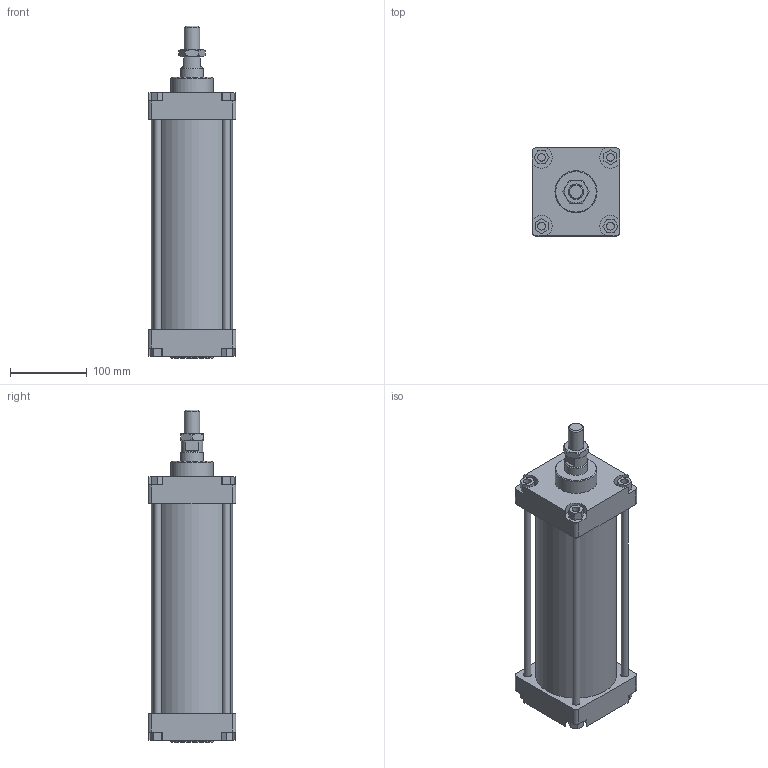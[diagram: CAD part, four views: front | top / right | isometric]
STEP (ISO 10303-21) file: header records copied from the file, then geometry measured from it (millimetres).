
FILE_DESCRIPTION(/* description */ (''),/* implementation_level */ '2;1');
FILE_NAME(/* name */ 'I:\Area Tecnica\Disegni\VARIE-3D\Componenti\CSP\Ø100\130#_100_####_###\130#_100_0200_01A.stp',/* time_stamp */ '2016-11-24T13:51:23+01:00',/* author */ ('Maniean1'),/* organization */ ('Pneumax S.p.A.'),/* preprocessor_version */ 'ST-DEVELOPER v15.2',/* originating_system */ 'Autodesk Inventor 2014',/* authorisation */ '');
FILE_SCHEMA (('AUTOMOTIVE_DESIGN { 1 0 10303 214 3 1 1 }'));
Length unit declared in the file: millimetre
Products named in the file (6): C_130#_100_0200; Testata anteriore_100; Testata posteriore_100; S_130#_100_0200_01A; 130#_100_18F; 130#_100_0200_01A
Bounding box: 115 x 115 x 434 mm (x, y, z)
Volume: 2003737.7 mm3; surface area: 397352.9 mm2
Topology: 9 solids, 9 shells, 162 faces, 380 edges, 249 vertices
Faces by surface type: plane 105, cylinder 42, cone 15
Full cylindrical faces by diameter (mm): 10 x12, 18.376 x1, 18.5 x1, 19 x2, 20 x1, 28 x1, 30 x3, 55 x2, 100 x2, 106 x1
Entity records: 4530 total; most frequent: CARTESIAN_POINT 785, DIRECTION 764, ORIENTED_EDGE 672, EDGE_CURVE 336, AXIS2_PLACEMENT_3D 271, VERTEX_POINT 244, EDGE_LOOP 236, LINE 222
